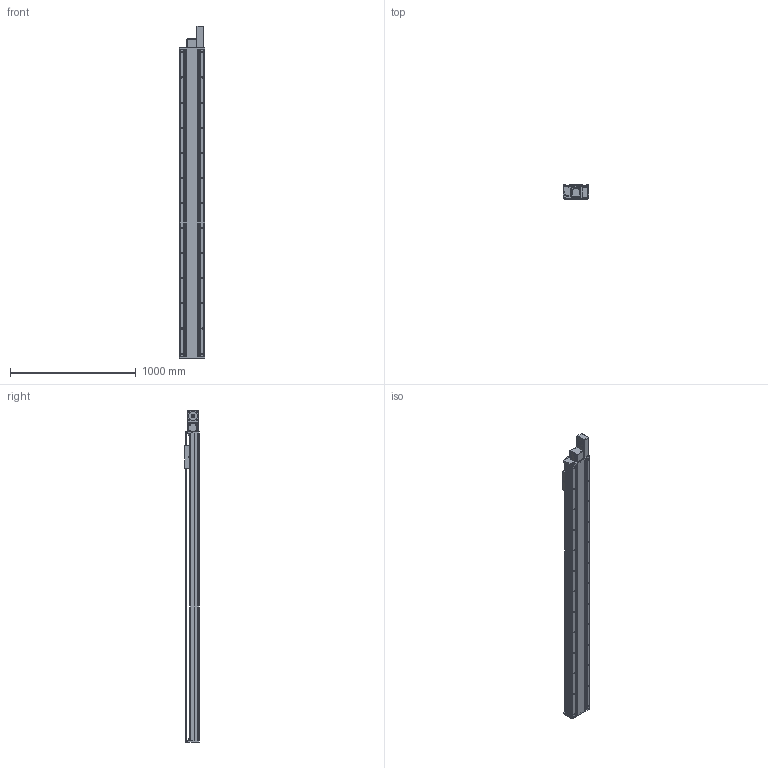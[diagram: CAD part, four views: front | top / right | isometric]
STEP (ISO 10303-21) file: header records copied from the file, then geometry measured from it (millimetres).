
FILE_DESCRIPTION(/* description */ (''),/* implementation_level */ '2;1');
FILE_NAME(/* name */ 'TKB200-FL-2200_asm1.stp',/* time_stamp */ '2016-05-18T10:31:36+08:00',/* author */ (''),/* organization */ (''),/* preprocessor_version */ 'ST-DEVELOPER v15',/* originating_system */ 'SIEMENS PLM Software NX 8.5',/* authorisation */ '');
FILE_SCHEMA (('AUTOMOTIVE_DESIGN { 1 0 10303 214 3 1 1 1 }'));
Length unit declared in the file: millimetre
Products named in the file (3): 200-2; 200-1; TKB200-FL-2200_asm1
Assembly tree (2 placements, depth 2):
  TKB200-FL-2200_asm1
    200-1
    200-2
Bounding box: 200 x 115 x 2645 mm (x, y, z)
Volume: 14936732.5 mm3; surface area: 4810448.8 mm2
Topology: 2 solids, 3 shells, 1105 faces, 3217 edges, 2075 vertices
Faces by surface type: cylinder 536, plane 483, cone 70, bspline 16
Full cylindrical faces by diameter (mm): 2.5 x2, 3.3 x16, 4.3 x4, 4.5 x8, 5 x2, 6.6 x34, 6.8 x8, 8 x6, 9 x34, 10 x4, 11 x22, 12 x16, 14 x26, 75 x1
Entity records: 39457 total; most frequent: CARTESIAN_POINT 11382, ORIENTED_EDGE 5702, DIRECTION 5673, EDGE_CURVE 2851, AXIS2_PLACEMENT_3D 2070, VERTEX_POINT 1964, EDGE_LOOP 1549, LINE 1533
